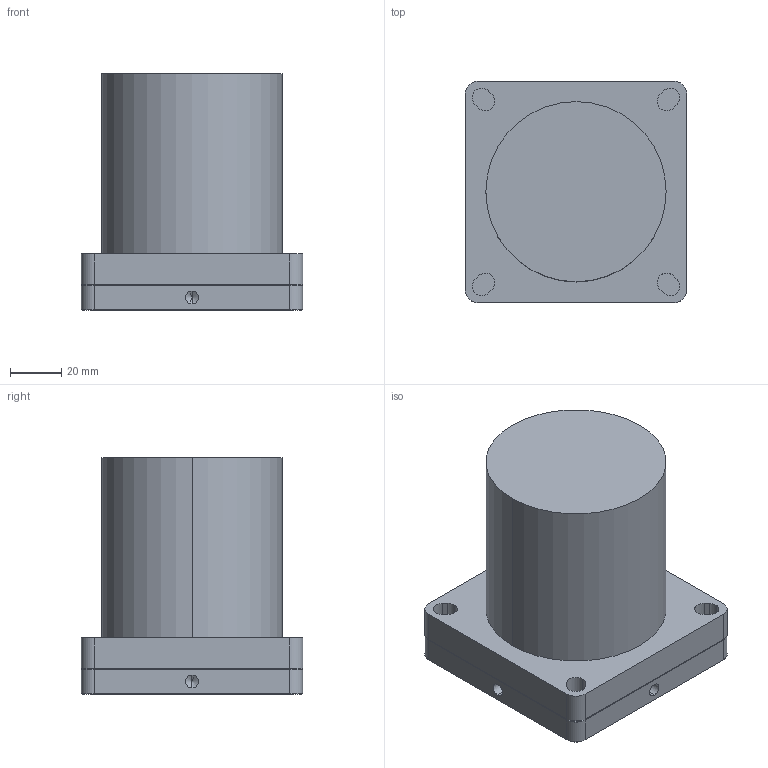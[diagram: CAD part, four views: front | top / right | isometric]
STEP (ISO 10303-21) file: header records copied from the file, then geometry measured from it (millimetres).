
FILE_DESCRIPTION (( 'STEP AP214' ), '1' );
FILE_NAME ('笢諾隙扞ん尨砩芞.STEP', '2026-05-27T09:11:50', ( '' ), ( '' ), 'SwSTEP 2.0', 'SolidWorks 2024', '' );
FILE_SCHEMA (( 'AUTOMOTIVE_DESIGN' ));
Length unit declared in the file: millimetre
Products named in the file (3): 中空回射器; 中空回射器转接; 中空回射器示意图
Assembly tree (2 placements, depth 2):
  中空回射器示意图
    中空回射器转接
    中空回射器
Bounding box: 86.01 x 86.01 x 92 mm (x, y, z)
Volume: 415975.6 mm3; surface area: 57158.2 mm2
Topology: 2 solids, 2 shells, 162 faces, 400 edges, 230 vertices
Faces by surface type: cone 68, cylinder 65, plane 29
Entity records: 4707 total; most frequent: DIRECTION 885, CARTESIAN_POINT 771, ORIENTED_EDGE 748, EDGE_CURVE 374, AXIS2_PLACEMENT_3D 344, VERTEX_POINT 230, VECTOR 197, LINE 197
